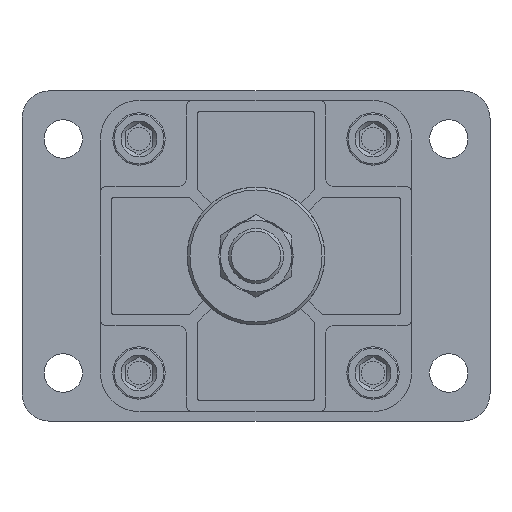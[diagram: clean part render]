
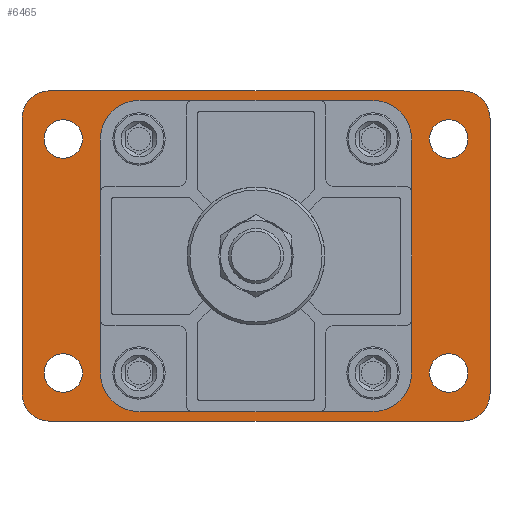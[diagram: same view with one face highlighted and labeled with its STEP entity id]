
A CAD part, front view. The second image highlights one B-rep face of the part: STEP entity #6465.
In plain terms, the highlighted planar face has unit normal (0, -1, 0) as drawn and (0, 1, 0) by its records, which use the part's own axes.
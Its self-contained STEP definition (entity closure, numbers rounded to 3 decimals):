
#580=LINE('',#9855,#954);
#584=LINE('',#9864,#958);
#588=LINE('',#9873,#962);
#590=LINE('',#9877,#964);
#954=VECTOR('',#8333,1000.);
#958=VECTOR('',#8339,1000.);
#962=VECTOR('',#8345,1000.);
#964=VECTOR('',#8349,1000.);
#2173=ORIENTED_EDGE('',*,*,#2855,.F.);
#2174=ORIENTED_EDGE('',*,*,#2856,.T.);
#2175=ORIENTED_EDGE('',*,*,#2857,.T.);
#2176=ORIENTED_EDGE('',*,*,#2858,.T.);
#2177=ORIENTED_EDGE('',*,*,#2859,.T.);
#2178=ORIENTED_EDGE('',*,*,#2860,.F.);
#2179=ORIENTED_EDGE('',*,*,#2861,.F.);
#2180=ORIENTED_EDGE('',*,*,#2862,.F.);
#2181=ORIENTED_EDGE('',*,*,#2863,.F.);
#2182=ORIENTED_EDGE('',*,*,#2828,.F.);
#2183=ORIENTED_EDGE('',*,*,#2864,.T.);
#2184=ORIENTED_EDGE('',*,*,#2838,.F.);
#2185=ORIENTED_EDGE('',*,*,#2865,.T.);
#2186=ORIENTED_EDGE('',*,*,#2836,.F.);
#2187=ORIENTED_EDGE('',*,*,#2866,.T.);
#2188=ORIENTED_EDGE('',*,*,#2832,.F.);
#2189=ORIENTED_EDGE('',*,*,#2867,.T.);
#2828=EDGE_CURVE('',#3288,#3289,#580,.T.);
#2832=EDGE_CURVE('',#3292,#3293,#584,.T.);
#2836=EDGE_CURVE('',#3296,#3297,#588,.T.);
#2838=EDGE_CURVE('',#3298,#3299,#590,.T.);
#2855=EDGE_CURVE('',#3311,#3311,#3539,.F.);
#2856=EDGE_CURVE('',#3312,#3312,#3540,.T.);
#2857=EDGE_CURVE('',#3313,#3313,#3541,.T.);
#2858=EDGE_CURVE('',#3314,#3314,#3542,.T.);
#2859=EDGE_CURVE('',#3315,#3315,#3543,.T.);
#2860=EDGE_CURVE('',#3316,#3316,#3544,.F.);
#2861=EDGE_CURVE('',#3317,#3317,#3545,.F.);
#2862=EDGE_CURVE('',#3318,#3318,#3546,.F.);
#2863=EDGE_CURVE('',#3319,#3319,#3547,.F.);
#2864=EDGE_CURVE('',#3288,#3299,#3548,.F.);
#2865=EDGE_CURVE('',#3298,#3297,#3549,.F.);
#2866=EDGE_CURVE('',#3296,#3293,#3550,.F.);
#2867=EDGE_CURVE('',#3292,#3289,#3551,.F.);
#3288=VERTEX_POINT('',#9854);
#3289=VERTEX_POINT('',#9856);
#3292=VERTEX_POINT('',#9863);
#3293=VERTEX_POINT('',#9865);
#3296=VERTEX_POINT('',#9872);
#3297=VERTEX_POINT('',#9874);
#3298=VERTEX_POINT('',#9878);
#3299=VERTEX_POINT('',#9879);
#3311=VERTEX_POINT('',#9910);
#3312=VERTEX_POINT('',#9912);
#3313=VERTEX_POINT('',#9914);
#3314=VERTEX_POINT('',#9916);
#3315=VERTEX_POINT('',#9918);
#3316=VERTEX_POINT('',#9920);
#3317=VERTEX_POINT('',#9922);
#3318=VERTEX_POINT('',#9924);
#3319=VERTEX_POINT('',#9926);
#3539=CIRCLE('',#7000,25.5);
#3540=CIRCLE('',#7001,5.5);
#3541=CIRCLE('',#7002,5.5);
#3542=CIRCLE('',#7003,5.5);
#3543=CIRCLE('',#7004,5.5);
#3544=CIRCLE('',#7005,7.);
#3545=CIRCLE('',#7006,7.);
#3546=CIRCLE('',#7007,7.);
#3547=CIRCLE('',#7008,7.);
#3548=CIRCLE('',#7009,10.);
#3549=CIRCLE('',#7010,10.);
#3550=CIRCLE('',#7011,10.);
#3551=CIRCLE('',#7012,10.);
#3916=EDGE_LOOP('',(#2173));
#3917=EDGE_LOOP('',(#2174));
#3918=EDGE_LOOP('',(#2175));
#3919=EDGE_LOOP('',(#2176));
#3920=EDGE_LOOP('',(#2177));
#3921=EDGE_LOOP('',(#2178));
#3922=EDGE_LOOP('',(#2179));
#3923=EDGE_LOOP('',(#2180));
#3924=EDGE_LOOP('',(#2181));
#3925=EDGE_LOOP('',(#2182,#2183,#2184,#2185,#2186,#2187,#2188,#2189));
#4320=FACE_BOUND('',#3916,.T.);
#4321=FACE_BOUND('',#3917,.T.);
#4322=FACE_BOUND('',#3918,.T.);
#4323=FACE_BOUND('',#3919,.T.);
#4324=FACE_BOUND('',#3920,.T.);
#4325=FACE_BOUND('',#3921,.T.);
#4326=FACE_BOUND('',#3922,.T.);
#4327=FACE_BOUND('',#3923,.T.);
#4328=FACE_BOUND('',#3924,.T.);
#4329=FACE_BOUND('',#3925,.T.);
#4526=PLANE('',#6999);
#6465=ADVANCED_FACE('',(#4320,#4321,#4322,#4323,#4324,#4325,#4326,#4327,
#4328,#4329),#4526,.F.);
#6999=AXIS2_PLACEMENT_3D('',#9908,#8381,#8382);
#7000=AXIS2_PLACEMENT_3D('',#9909,#8383,#8384);
#7001=AXIS2_PLACEMENT_3D('',#9911,#8385,#8386);
#7002=AXIS2_PLACEMENT_3D('',#9913,#8387,#8388);
#7003=AXIS2_PLACEMENT_3D('',#9915,#8389,#8390);
#7004=AXIS2_PLACEMENT_3D('',#9917,#8391,#8392);
#7005=AXIS2_PLACEMENT_3D('',#9919,#8393,#8394);
#7006=AXIS2_PLACEMENT_3D('',#9921,#8395,#8396);
#7007=AXIS2_PLACEMENT_3D('',#9923,#8397,#8398);
#7008=AXIS2_PLACEMENT_3D('',#9925,#8399,#8400);
#7009=AXIS2_PLACEMENT_3D('',#9927,#8401,#8402);
#7010=AXIS2_PLACEMENT_3D('',#9928,#8403,#8404);
#7011=AXIS2_PLACEMENT_3D('',#9929,#8405,#8406);
#7012=AXIS2_PLACEMENT_3D('',#9930,#8407,#8408);
#8333=DIRECTION('',(0.,0.,-1.));
#8339=DIRECTION('',(1.,0.,0.));
#8345=DIRECTION('',(0.,0.,1.));
#8349=DIRECTION('',(-1.,0.,0.));
#8381=DIRECTION('',(0.,-1.,0.));
#8382=DIRECTION('',(0.,0.,-1.));
#8383=DIRECTION('',(0.,-1.,0.));
#8384=DIRECTION('',(0.,0.,-1.));
#8385=DIRECTION('',(0.,-1.,0.));
#8386=DIRECTION('',(0.,0.,-1.));
#8387=DIRECTION('',(0.,-1.,0.));
#8388=DIRECTION('',(0.,0.,-1.));
#8389=DIRECTION('',(0.,-1.,0.));
#8390=DIRECTION('',(0.,0.,-1.));
#8391=DIRECTION('',(0.,-1.,0.));
#8392=DIRECTION('',(0.,0.,-1.));
#8393=DIRECTION('',(0.,-1.,0.));
#8394=DIRECTION('',(0.,0.,-1.));
#8395=DIRECTION('',(0.,-1.,0.));
#8396=DIRECTION('',(0.,0.,-1.));
#8397=DIRECTION('',(0.,-1.,0.));
#8398=DIRECTION('',(0.,0.,-1.));
#8399=DIRECTION('',(0.,-1.,0.));
#8400=DIRECTION('',(0.,0.,-1.));
#8401=DIRECTION('',(0.,-1.,0.));
#8402=DIRECTION('',(0.,0.,-1.));
#8403=DIRECTION('',(0.,-1.,0.));
#8404=DIRECTION('',(0.,0.,-1.));
#8405=DIRECTION('',(0.,-1.,0.));
#8406=DIRECTION('',(0.,0.,-1.));
#8407=DIRECTION('',(0.,-1.,0.));
#8408=DIRECTION('',(0.,0.,-1.));
#9854=CARTESIAN_POINT('',(-85.,0.,50.));
#9855=CARTESIAN_POINT('',(-85.,0.,28.));
#9856=CARTESIAN_POINT('',(-85.,0.,-50.));
#9863=CARTESIAN_POINT('',(-75.,0.,-60.));
#9864=CARTESIAN_POINT('',(-43.,0.,-60.));
#9865=CARTESIAN_POINT('',(75.,0.,-60.));
#9872=CARTESIAN_POINT('',(85.,0.,-50.));
#9873=CARTESIAN_POINT('',(85.,0.,-28.));
#9874=CARTESIAN_POINT('',(85.,0.,50.));
#9877=CARTESIAN_POINT('',(43.,0.,60.));
#9878=CARTESIAN_POINT('',(75.,0.,60.));
#9879=CARTESIAN_POINT('',(-75.,0.,60.));
#9908=CARTESIAN_POINT('',(0.,0.,0.));
#9909=CARTESIAN_POINT('',(0.,0.,0.));
#9910=CARTESIAN_POINT('',(0.,0.,-25.5));
#9911=CARTESIAN_POINT('',(-42.5,0.,-42.5));
#9912=CARTESIAN_POINT('',(-42.5,0.,-48.));
#9913=CARTESIAN_POINT('',(42.5,0.,-42.5));
#9914=CARTESIAN_POINT('',(42.5,0.,-48.));
#9915=CARTESIAN_POINT('',(42.5,0.,42.5));
#9916=CARTESIAN_POINT('',(42.5,0.,37.));
#9917=CARTESIAN_POINT('',(-42.5,0.,42.5));
#9918=CARTESIAN_POINT('',(-42.5,0.,37.));
#9919=CARTESIAN_POINT('',(70.,0.,-42.5));
#9920=CARTESIAN_POINT('',(70.,0.,-49.5));
#9921=CARTESIAN_POINT('',(-70.,0.,-42.5));
#9922=CARTESIAN_POINT('',(-70.,0.,-49.5));
#9923=CARTESIAN_POINT('',(-70.,0.,42.5));
#9924=CARTESIAN_POINT('',(-70.,0.,35.5));
#9925=CARTESIAN_POINT('',(70.,0.,42.5));
#9926=CARTESIAN_POINT('',(70.,0.,35.5));
#9927=CARTESIAN_POINT('',(-75.,0.,50.));
#9928=CARTESIAN_POINT('',(75.,0.,50.));
#9929=CARTESIAN_POINT('',(75.,0.,-50.));
#9930=CARTESIAN_POINT('',(-75.,0.,-50.));
